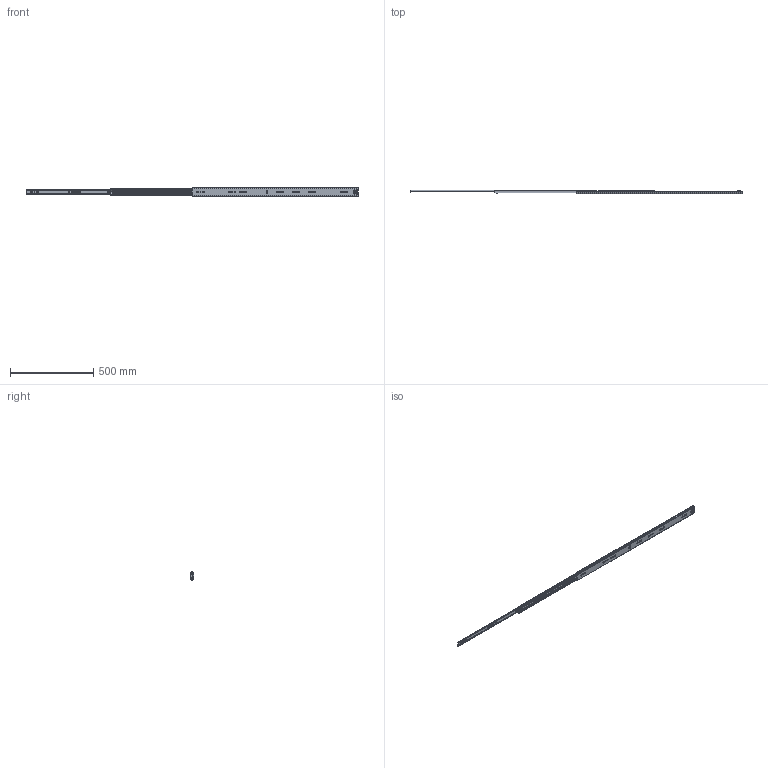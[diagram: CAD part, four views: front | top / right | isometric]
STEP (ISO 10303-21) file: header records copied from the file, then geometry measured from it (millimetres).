
FILE_DESCRIPTION((''),'2;1');
FILE_NAME('1053-02-40_ASM','2022-08-16T',('jishu015'),(''),'PRO/ENGINEER BY PARAMETRIC TECHNOLOGY CORPORATION, 2010280','PRO/ENGINEER BY PARAMETRIC TECHNOLOGY CORPORATION, 2010280','');
FILE_SCHEMA(('CONFIG_CONTROL_DESIGN'));
Products named in the file (16): 1053-02-40WAIKE; 1053WEIJIAO______; 53-WAIKEJIAO-40; 1053-02-40WAIKE_ASM; 1053ZHUTIAO-175______; 53-5-6GANZHU______; 1053ZHUTIAO-175MM_______ASM; 1053-02-18ZHONGGUI______; 53ZHIDIJIAO______; 1053-02-18ZHONGGUI_______ASM; 1053XIAOZHUJIA-14GE______; 1053XIAOZHUJIA-14GE_______ASM; 1053-02-18NEIGUI______; 53BACHA_____; 1053-02-18NEIGUI_______ASM; 1053-02-40_ASM
Assembly tree (109 placements, depth 3):
  1053-02-40_ASM
    1053-02-40WAIKE_ASM
      1053-02-40WAIKE
      1053WEIJIAO______
      53-WAIKEJIAO-40
    1053ZHUTIAO-175MM_______ASM  x2
      1053ZHUTIAO-175______
      53-5-6GANZHU______
    1053-02-18ZHONGGUI_______ASM
      1053-02-18ZHONGGUI______
      53ZHIDIJIAO______
    1053XIAOZHUJIA-14GE_______ASM
      1053XIAOZHUJIA-14GE______
      53-5-6GANZHU______  x76
    1053-02-18NEIGUI_______ASM
      1053-02-18NEIGUI______
      53BACHA_____
Bounding box: 2000 x 18.7 x 53 mm (x, y, z)
Volume: 380903.2 mm3; surface area: 439597.1 mm2
Topology: 122 solids, 128 shells, 2995 faces, 8698 edges, 5411 vertices
Faces by surface type: cylinder 1330, plane 1152, sphere 242, cone 124, bspline 113, torus 34
Entity records: 95162 total; most frequent: CARTESIAN_POINT 22971, ORIENTED_EDGE 15196, DIRECTION 15022, EDGE_CURVE 7670, AXIS2_PLACEMENT_3D 5260, VERTEX_POINT 4957, VECTOR 4502, LINE 4502
